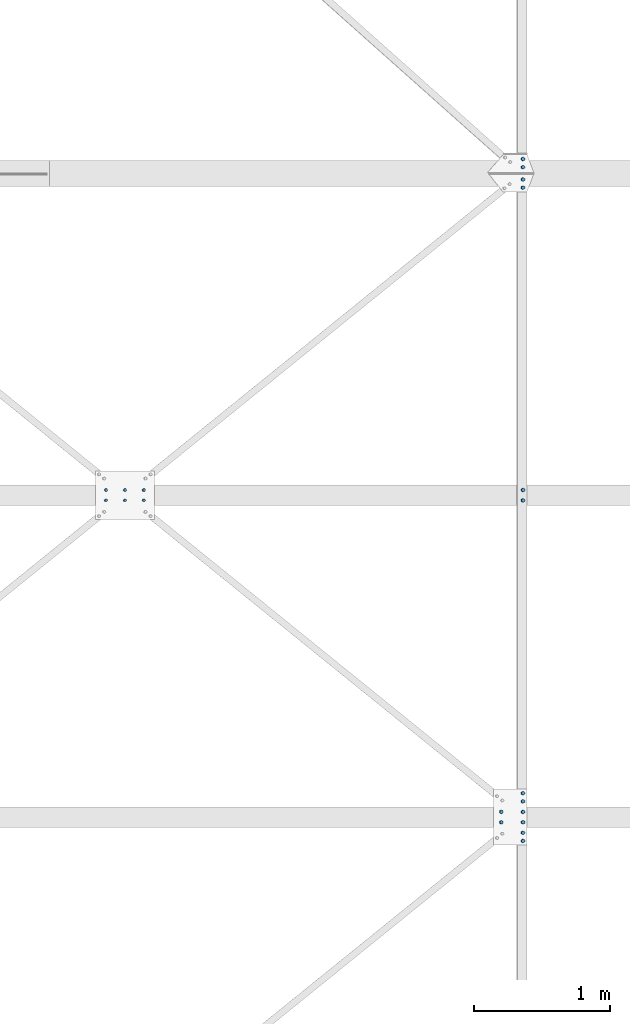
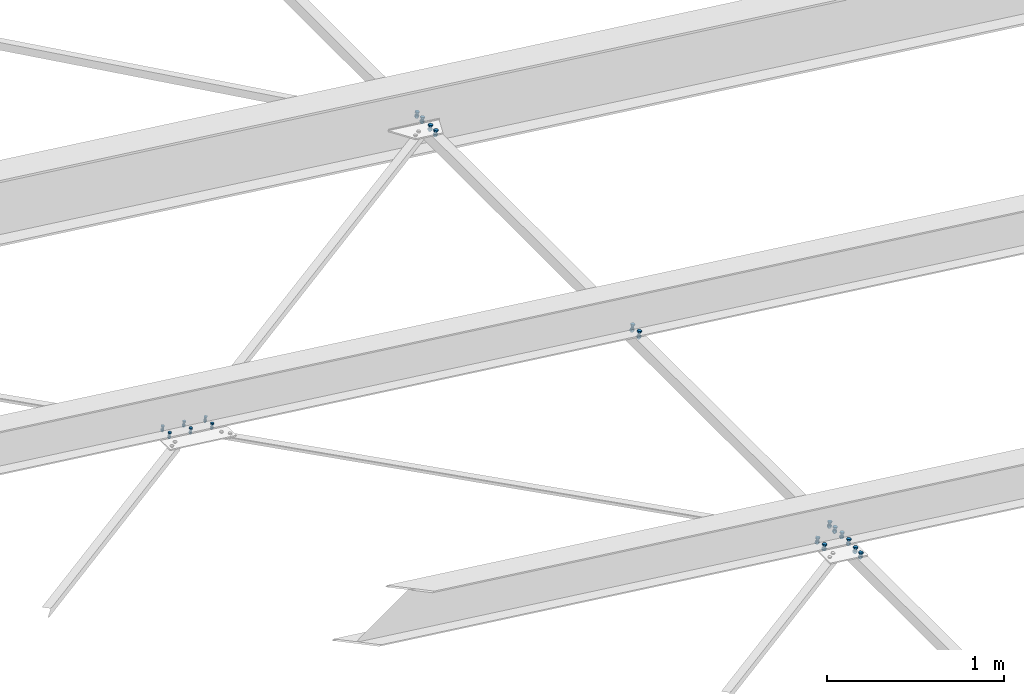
# One storey, part 94 of 3134: 7 mechanical fasteners, 5 elements without a shape of their own.
"""IFC2X3 building model written with IfcOpenShell, lengths in millimetres."""

import ifcopenshell
import ifcopenshell.guid

model = None  # the IFC model being written
_history = None  # IfcOwnerHistory: only IFC2X3 demands one
_inside = {}  # id of a spatial element -> (the spatial element, [elements in it])
_under = {}  # id of a project, library or spatial element -> (it, [spatial elements below it])
_declared = {}  # id of a project -> (the project, [libraries it declares])
_typed = {}  # id of a type object -> (the type object, [elements of that type])
_made_of = {}  # id of a material, layer set ... -> (it, [elements and type objects made of it])


def new_model(schema):
    """Start an empty IFC model of exactly this schema.

    Asked for "IFC4X3", IfcOpenShell would pick the latest addendum, in which some entities
    have other attributes; the version numbers below select the first issue.
    IFC2X3 requires an IfcOwnerHistory on every rooted entity: one is made here for all.
    """
    global model, _history
    if schema == "IFC4X3":
        model = ifcopenshell.file(schema_version=(4, 3, 0, 0))
    else:
        model = ifcopenshell.file(schema=schema)
    _inside.clear()
    _under.clear()
    _declared.clear()
    _typed.clear()
    _made_of.clear()
    _history = None
    if model.schema == "IFC2X3":
        org = make("IfcOrganization", Name="unknown")
        user = make(
            "IfcPersonAndOrganization",
            ThePerson=make("IfcPerson", FamilyName="unknown"),
            TheOrganization=org,
        )
        app = make(
            "IfcApplication",
            ApplicationDeveloper=org,
            Version="unknown",
            ApplicationFullName="unknown",
            ApplicationIdentifier="unknown",
        )
        _history = make(
            "IfcOwnerHistory",
            OwningUser=user,
            OwningApplication=app,
            ChangeAction="ADDED",
            CreationDate=0,
        )
    return model


def make(cls, **values):
    """One entity of the class cls with the attributes given. An attribute that is None is left unset."""
    return model.create_entity(
        cls, **{name: value for name, value in values.items() if value is not None}
    )


def rooted(cls, **values):
    """An entity with a GlobalId (a new one), such as an element, a storey or a relation."""
    return make(cls, GlobalId=ifcopenshell.guid.new(), OwnerHistory=_history, **values)


def si_unit(unit_type, name, prefix=None):
    """IfcSIUnit, for example si_unit("LENGTHUNIT", "METRE", prefix="MILLI")."""
    return make("IfcSIUnit", UnitType=unit_type, Prefix=prefix, Name=name)


def assignment(units):
    """IfcUnitAssignment: the units of a project."""
    return None if units is None else make("IfcUnitAssignment", Units=units)


def point(xyz):
    """IfcCartesianPoint."""
    return None if xyz is None else make("IfcCartesianPoint", Coordinates=xyz)


def direction(xyz):
    """IfcDirection."""
    return None if xyz is None else make("IfcDirection", DirectionRatios=xyz)


def frame(location, z_axis=None, x_axis=None):
    """IfcAxis2Placement3D, a coordinate frame: its origin and axes. An axis left out is left unset."""
    return make(
        "IfcAxis2Placement3D",
        Location=point(location),
        Axis=direction(z_axis),
        RefDirection=direction(x_axis),
    )


def origin_with_axes():
    """The frame at (0, 0, 0) with the z axis (0, 0, 1) and the x axis (1, 0, 0) written out."""
    return frame((0.0, 0.0, 0.0), z_axis=(0.0, 0.0, 1.0), x_axis=(1.0, 0.0, 0.0))


def place(relative_to, where):
    """IfcLocalPlacement: puts the frame where relative to a parent placement (None: the world)."""
    return make(
        "IfcLocalPlacement", PlacementRelTo=relative_to, RelativePlacement=where
    )


def context(
    kind, dimensions, precision=None, world=None, true_north=None, identifier=None
):
    """IfcGeometricRepresentationContext, for example the 3D "Model" context."""
    return make(
        "IfcGeometricRepresentationContext",
        ContextIdentifier=identifier,
        ContextType=kind,
        CoordinateSpaceDimension=dimensions,
        Precision=precision,
        WorldCoordinateSystem=world,
        TrueNorth=true_north,
    )


def subcontext(parent, identifier, kind, view, scale=None):
    """IfcGeometricRepresentationSubContext, for example "Body" below "Model"."""
    return make(
        "IfcGeometricRepresentationSubContext",
        ContextIdentifier=identifier,
        ContextType=kind,
        ParentContext=parent,
        TargetScale=scale,
        TargetView=view,
    )


def project(units=None, contexts=None):
    """IfcProject with its units and contexts."""
    return rooted(
        "IfcProject",
        Name="project",
        RepresentationContexts=contexts,
        UnitsInContext=assignment(units),
    )


def spatial(cls, under=None, at=None, **own):
    """A site, building, storey or space (cls), placed at a placement, below another one or the project."""
    s = rooted(cls, ObjectPlacement=at, **own)
    if under is not None:
        _under.setdefault(under.id(), (under, []))[1].append(s)
    return s


def faces_of(points, faces, orient=None, outer=None):
    """IfcFace entities. A face is a list of loops; a loop is a list of indices into points, from 0.

    orient and outer hold one flag for each loop. By default every Orientation is true, the
    first loop of a face is its IfcFaceOuterBound and the others are IfcFaceBound.
    """
    made = []
    for i, loops in enumerate(faces):
        bounds = []
        for j, loop in enumerate(loops):
            is_outer = j == 0 if outer is None else outer[i][j]
            bounds.append(
                make(
                    "IfcFaceOuterBound" if is_outer else "IfcFaceBound",
                    Bound=make("IfcPolyLoop", Polygon=[points[k] for k in loop]),
                    Orientation=True if orient is None else orient[i][j],
                )
            )
        made.append(make("IfcFace", Bounds=bounds))
    return made


def faceted_brep(points, faces, orient=None, outer=None, voids=None):
    """IfcFacetedBrep: a solid bounded by flat faces; with voids (closed shells), ...WithVoids."""
    shared = [point(p) for p in points]
    hull = make("IfcClosedShell", CfsFaces=faces_of(shared, faces, orient, outer))
    if voids is None:
        return make("IfcFacetedBrep", Outer=hull)
    return make(
        "IfcFacetedBrepWithVoids",
        Outer=hull,
        Voids=[
            make(cls, CfsFaces=faces_of(shared, fs, o, b)) for cls, fs, o, b in voids
        ],
    )


def shape(context_of_items, identifier, shape_type, items):
    """IfcShapeRepresentation: the items that make up one representation, for example the "Body"."""
    return make(
        "IfcShapeRepresentation",
        ContextOfItems=context_of_items,
        RepresentationIdentifier=identifier,
        RepresentationType=shape_type,
        Items=items,
    )


def source(mapping_origin, context_of_items, identifier, shape_type, items):
    """IfcRepresentationMap: a shape defined once, which mapped items show again and again."""
    return make(
        "IfcRepresentationMap",
        MappingOrigin=mapping_origin,
        MappedRepresentation=shape(context_of_items, identifier, shape_type, items),
    )


def transform(
    local_origin,
    x_axis=None,
    y_axis=None,
    z_axis=None,
    scale=None,
    scale2=None,
    scale3=None,
    uniform=True,
):
    """IfcCartesianTransformationOperator3D, or its non-uniform kind. x_axis, y_axis, z_axis: its Axis1, 2, 3."""
    if uniform:
        return make(
            "IfcCartesianTransformationOperator3D",
            Axis1=direction(x_axis),
            Axis2=direction(y_axis),
            LocalOrigin=point(local_origin),
            Scale=scale,
            Axis3=direction(z_axis),
        )
    return make(
        "IfcCartesianTransformationOperator3DnonUniform",
        Axis1=direction(x_axis),
        Axis2=direction(y_axis),
        LocalOrigin=point(local_origin),
        Scale=scale,
        Axis3=direction(z_axis),
        Scale2=scale2,
        Scale3=scale3,
    )


def mapped(mapping_source, mapping_target):
    """IfcMappedItem: shows the shape of a source again, moved by a transform."""
    return make(
        "IfcMappedItem", MappingSource=mapping_source, MappingTarget=mapping_target
    )


def material(Name=None, Category=None):
    """IfcMaterial."""
    return make("IfcMaterial", Name=Name, Category=Category)


def made_of(thing, what):
    """Note that an element or type object is made of a material, layer set ...; save() writes the relation."""
    if what is not None:
        _made_of.setdefault(what.id(), (what, []))[1].append(thing)
    return thing


def type_object(cls, material=None, **own):
    """A type object (cls), such as IfcWallType, which elements share."""
    return made_of(rooted(cls, **own), material)


def element(
    cls,
    number,
    at=None,
    inside=None,
    cuts=None,
    type_object=None,
    material=None,
    context=None,
    identifier="Body",
    shape_type=None,
    held_by="IfcProductDefinitionShape",
    body=None,
    shapes=None,
    **own,
):
    """One element of the class cls, such as IfcWall. Its Tag is "e" and its number.

    at: its placement. inside: the storey or other place that contains it. cuts: it is an
    opening in that element (IfcRelVoidsElement). A single representation is given by context,
    identifier, shape_type and body (its items); several are given by shapes. held_by: the class
    of the entity that holds the representations. save() writes the other relations.
    """
    e = rooted(cls, Tag="e%d" % number, ObjectPlacement=at, **own)
    if body is not None:
        shapes = [shape(context, identifier, shape_type, body)]
    if shapes is not None:
        e.Representation = make(held_by, Representations=shapes)
    if inside is not None:
        _inside.setdefault(inside.id(), (inside, []))[1].append(e)
    if cuts is not None:
        rooted(
            "IfcRelVoidsElement", RelatingBuildingElement=cuts, RelatedOpeningElement=e
        )
    if type_object is not None:
        _typed.setdefault(type_object.id(), (type_object, []))[1].append(e)
    return made_of(e, material)


def aggregate(whole, parts):
    """IfcRelAggregates: a whole, such as a stair, and the parts it consists of."""
    return rooted("IfcRelAggregates", RelatingObject=whole, RelatedObjects=parts)


def save(model, path):
    """Write the relations noted so far, then the file.

    IfcRelAggregates (storeys below a building ...), IfcRelContainedInSpatialStructure (elements
    in a storey), IfcRelDefinesByType, IfcRelAssociatesMaterial and IfcRelDeclares: one each for
    every whole, place, type object, material and project.
    """
    for whole, parts in _under.values():
        aggregate(whole, parts)
    for where, things in _inside.values():
        rooted(
            "IfcRelContainedInSpatialStructure",
            RelatedElements=things,
            RelatingStructure=where,
        )
    for kind, things in _typed.values():
        rooted("IfcRelDefinesByType", RelatedObjects=things, RelatingType=kind)
    for what, things in _made_of.values():
        rooted("IfcRelAssociatesMaterial", RelatedObjects=things, RelatingMaterial=what)
    for by, libraries in _declared.values():
        rooted("IfcRelDeclares", RelatingContext=by, RelatedDefinitions=libraries)
    model.write(path)


model = new_model("IFC2X3")

# Units and contexts
model_context = context("Model", 3, precision=1e-05, world=origin_with_axes())
body_context = subcontext(model_context, "Body", "Model", "MODEL_VIEW")
ifc_project = project(units=[si_unit("LENGTHUNIT", "METRE", prefix="MILLI"), si_unit("AREAUNIT", "SQUARE_METRE"), si_unit("VOLUMEUNIT", "CUBIC_METRE"), si_unit("MASSUNIT", "GRAM", prefix="KILO"), si_unit("TIMEUNIT", "SECOND"), si_unit("PLANEANGLEUNIT", "RADIAN"), si_unit("SOLIDANGLEUNIT", "STERADIAN"), si_unit("THERMODYNAMICTEMPERATUREUNIT", "DEGREE_CELSIUS"), si_unit("LUMINOUSINTENSITYUNIT", "LUMEN")], contexts=[model_context])

# Site, building, storey
site_placement = place(None, origin_with_axes())
site = spatial("IfcSite", under=ifc_project, at=site_placement, CompositionType="ELEMENT")
building_placement = place(site_placement, origin_with_axes())
building = spatial("IfcBuilding", under=site, at=building_placement, Name="Undefined", CompositionType="ELEMENT")
storey_placement = place(building_placement, origin_with_axes())
storey = spatial("IfcBuildingStorey", under=building, at=storey_placement, Name="Undefined", CompositionType="ELEMENT", Elevation=0.0)

# Assembly, mechanical fastener
assembly_1_placement = place(storey_placement, origin_with_axes())
assembly_1 = element("IfcElementAssembly", 1, at=assembly_1_placement, inside=storey, Name="300", AssemblyPlace="NOTDEFINED", PredefinedType="RIGID_FRAME")
ifc_material = material(Name="8.8")
mechanical_fastener_type = type_object("IfcMechanicalFastenerType", Name="Bolt assembly")
shared_shape_1 = source(origin_with_axes(), body_context, "Body", "Brep", [
    faceted_brep([(13.856406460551, -19.199990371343, 0.0), (6.92820323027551, -19.199990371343, 12.0), (-6.92820323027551, -19.199990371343, 12.0), (-13.856406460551, -19.199990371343, 1.69692038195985e-15), (-6.92820323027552, -19.199990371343, -12.0), (6.9282032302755, -19.199990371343, -12.0), (6.9282032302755, -9.19999037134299, -12.0), (-6.92820323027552, -9.19999037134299, -12.0), (-13.856406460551, -9.19999037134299, 1.69692038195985e-15), (-6.92820323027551, -9.19999037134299, 12.0), (6.92820323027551, -9.19999037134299, 12.0), (13.856406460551, -9.19999037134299, 0.0), (8.0, -9.19999037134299, 0.0), (6.92820323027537, -9.19999037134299, 4.00000000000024), (3.99999999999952, -9.19999037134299, 6.92820323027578), (-8.29068785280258e-13, -9.19999037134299, 8.0), (-4.00000000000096, -9.19999037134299, 6.92820323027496), (-6.9282032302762, -9.19999037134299, 3.99999999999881), (-8.0, -9.19999037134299, -1.65813757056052e-12), (-6.92820323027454, -9.19999037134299, -4.00000000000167), (-3.99999999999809, -9.19999037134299, -6.92820323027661), (2.47832457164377e-12, -9.19999037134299, -8.0), (4.00000000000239, -9.19999037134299, -6.92820323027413), (6.92820323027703, -9.19999037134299, -3.99999999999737), (6.92820323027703, 25.800009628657, -3.99999999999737), (4.00000000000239, 25.800009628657, -6.92820323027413), (2.47832457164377e-12, 25.800009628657, -8.0), (-3.99999999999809, 25.800009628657, -6.92820323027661), (-6.92820323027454, 25.800009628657, -4.00000000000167), (-8.0, 25.800009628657, -1.65813757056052e-12), (-6.9282032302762, 25.800009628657, 3.99999999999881), (-4.00000000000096, 25.800009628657, 6.92820323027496), (-8.29068785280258e-13, 25.800009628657, 8.0), (3.99999999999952, 25.800009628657, 6.92820323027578), (6.92820323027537, 25.800009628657, 4.00000000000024), (8.0, 25.800009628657, 0.0), (13.856406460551, 8.00000637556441, 0.0), (6.92820323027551, 8.00000637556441, 12.0), (-6.92820323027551, 8.00000637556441, 12.0), (-13.856406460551, 8.00000637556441, 1.69692038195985e-15), (-6.92820323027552, 8.00000637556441, -12.0), (6.9282032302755, 8.00000637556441, -12.0), (6.9282032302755, 21.0000063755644, -12.0), (-6.92820323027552, 21.0000063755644, -12.0), (-13.856406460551, 21.0000063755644, 1.69692038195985e-15), (-6.92820323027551, 21.0000063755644, 12.0), (6.92820323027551, 21.0000063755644, 12.0), (13.856406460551, 21.0000063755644, 0.0)], [[[0, 1, 2, 3, 4, 5]], [[6, 7, 8, 9, 10, 11]], [[0, 11, 10, 1]], [[1, 10, 9, 2]], [[2, 9, 8, 3]], [[3, 8, 7, 4]], [[4, 7, 6, 5]], [[5, 6, 11, 0]], [[12, 13, 14, 15, 16, 17, 18, 19, 20, 21, 22, 23]], [[24, 25, 26, 27, 28, 29, 30, 31, 32, 33, 34, 35]], [[12, 35, 34, 13]], [[13, 34, 33, 14]], [[14, 33, 32, 15]], [[15, 32, 31, 16]], [[16, 31, 30, 17]], [[17, 30, 29, 18]], [[18, 29, 28, 19]], [[19, 28, 27, 20]], [[20, 27, 26, 21]], [[21, 26, 25, 22]], [[22, 25, 24, 23]], [[23, 24, 35, 12]], [[36, 37, 38, 39, 40, 41]], [[42, 43, 44, 45, 46, 47]], [[36, 47, 46, 37]], [[37, 46, 45, 38]], [[38, 45, 44, 39]], [[39, 44, 43, 40]], [[40, 43, 42, 41]], [[41, 42, 47, 36]]]),
    faceted_brep([(9.0, -0.1, 0.0), (7.79422863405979, -0.1, 4.50000000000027), (4.49999999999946, -0.1, 7.79422863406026), (-9.3270238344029e-13, -0.1, 9.0), (-4.50000000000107, -0.1, 7.79422863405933), (-7.79422863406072, -0.1, 4.49999999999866), (-9.0, -0.1, -1.86540476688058e-12), (-7.79422863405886, -0.1, -4.50000000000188), (-4.49999999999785, -0.1, -7.79422863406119), (2.78811514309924e-12, -0.1, -9.0), (4.50000000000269, -0.1, -7.7942286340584), (7.79422863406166, -0.1, -4.49999999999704), (7.79422863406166, 8.00000000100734, -4.49999999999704), (4.50000000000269, 8.00000000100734, -7.7942286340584), (2.78811514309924e-12, 8.00000000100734, -9.0), (-4.49999999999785, 8.00000000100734, -7.79422863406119), (-7.79422863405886, 8.00000000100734, -4.50000000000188), (-9.0, 8.00000000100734, -1.86540476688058e-12), (-7.79422863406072, 8.00000000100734, 4.49999999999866), (-4.50000000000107, 8.00000000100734, 7.79422863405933), (-9.3270238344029e-13, 8.00000000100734, 9.0), (4.49999999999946, 8.00000000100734, 7.79422863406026), (7.79422863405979, 8.00000000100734, 4.50000000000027), (9.0, 8.00000000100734, 0.0), (9.0, -9.09999037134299, 0.0), (7.79422863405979, -9.09999037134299, 4.50000000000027), (4.49999999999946, -9.09999037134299, 7.79422863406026), (-9.3270238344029e-13, -9.09999037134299, 9.0), (-4.50000000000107, -9.09999037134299, 7.79422863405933), (-7.79422863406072, -9.09999037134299, 4.49999999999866), (-9.0, -9.09999037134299, -1.86540476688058e-12), (-7.79422863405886, -9.09999037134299, -4.50000000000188), (-4.49999999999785, -9.09999037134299, -7.79422863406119), (2.78811514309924e-12, -9.09999037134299, -9.0), (4.50000000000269, -9.09999037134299, -7.7942286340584), (7.79422863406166, -9.09999037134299, -4.49999999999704), (7.79422863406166, 0.100000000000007, -4.49999999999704), (4.50000000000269, 0.100000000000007, -7.7942286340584), (2.78811514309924e-12, 0.100000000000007, -9.0), (-4.49999999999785, 0.100000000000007, -7.79422863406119), (-7.79422863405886, 0.100000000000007, -4.50000000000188), (-9.0, 0.100000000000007, -1.86540476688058e-12), (-7.79422863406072, 0.100000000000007, 4.49999999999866), (-4.50000000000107, 0.100000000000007, 7.79422863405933), (-9.3270238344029e-13, 0.100000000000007, 9.0), (4.49999999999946, 0.100000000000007, 7.79422863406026), (7.79422863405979, 0.100000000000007, 4.50000000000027), (9.0, 0.100000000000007, 0.0)], [[[0, 1, 2, 3, 4, 5, 6, 7, 8, 9, 10, 11]], [[12, 13, 14, 15, 16, 17, 18, 19, 20, 21, 22, 23]], [[0, 23, 22, 1]], [[1, 22, 21, 2]], [[2, 21, 20, 3]], [[3, 20, 19, 4]], [[4, 19, 18, 5]], [[5, 18, 17, 6]], [[6, 17, 16, 7]], [[7, 16, 15, 8]], [[8, 15, 14, 9]], [[9, 14, 13, 10]], [[10, 13, 12, 11]], [[11, 12, 23, 0]], [[24, 25, 26, 27, 28, 29, 30, 31, 32, 33, 34, 35]], [[36, 37, 38, 39, 40, 41, 42, 43, 44, 45, 46, 47]], [[24, 47, 46, 25]], [[25, 46, 45, 26]], [[26, 45, 44, 27]], [[27, 44, 43, 28]], [[28, 43, 42, 29]], [[29, 42, 41, 30]], [[30, 41, 40, 31]], [[31, 40, 39, 32]], [[32, 39, 38, 33]], [[33, 38, 37, 34]], [[34, 37, 36, 35]], [[35, 36, 47, 24]]]),
])
mechanical_fastener_1_placement = place(assembly_1_placement, frame((26608.5751064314, 14692.0, 4816.43281405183), z_axis=(-0.992623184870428, 0.0, 0.121240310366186), x_axis=(0.0, 1.0, 0.0)))
mechanical_fastener_1 = element("IfcMechanicalFastener", 2, at=mechanical_fastener_1_placement, type_object=mechanical_fastener_type, material=ifc_material, Name="Bolt assembly", NominalDiameter=16.0, NominalLength=35.0, context=body_context, shape_type="MappedRepresentation", body=[
    mapped(shared_shape_1, transform((0.0, -5.32963895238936e-10, -79.9999999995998))),
    mapped(shared_shape_1, transform((76.0, -5.32963895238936e-10, -79.9999999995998))),
    mapped(shared_shape_1, transform((0.0, 5.3114490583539e-10, 79.9999999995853))),
    mapped(shared_shape_1, transform((76.0, 5.3114490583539e-10, 79.9999999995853))),
])
aggregate(assembly_1, [mechanical_fastener_1])

assembly_2_placement = place(storey_placement, origin_with_axes())
assembly_2 = element("IfcElementAssembly", 3, at=assembly_2_placement, inside=storey, AssemblyPlace="NOTDEFINED", PredefinedType="RIGID_FRAME")
shared_shape_2 = source(origin_with_axes(), body_context, "Body", "Brep", [
    faceted_brep([(13.856406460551, -19.199990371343, 0.0), (6.92820323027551, -19.199990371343, 12.0), (-6.92820323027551, -19.199990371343, 12.0), (-13.856406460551, -19.199990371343, 1.69692038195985e-15), (-6.92820323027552, -19.199990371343, -12.0), (6.9282032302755, -19.199990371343, -12.0), (6.9282032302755, -9.19999037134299, -12.0), (-6.92820323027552, -9.19999037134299, -12.0), (-13.856406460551, -9.19999037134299, 1.69692038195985e-15), (-6.92820323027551, -9.19999037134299, 12.0), (6.92820323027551, -9.19999037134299, 12.0), (13.856406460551, -9.19999037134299, 0.0), (8.0, -9.19999037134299, 0.0), (6.92820323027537, -9.19999037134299, 4.00000000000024), (3.99999999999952, -9.19999037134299, 6.92820323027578), (-8.29068785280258e-13, -9.19999037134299, 8.0), (-4.00000000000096, -9.19999037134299, 6.92820323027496), (-6.9282032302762, -9.19999037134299, 3.99999999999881), (-8.0, -9.19999037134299, -1.65813757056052e-12), (-6.92820323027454, -9.19999037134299, -4.00000000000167), (-3.99999999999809, -9.19999037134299, -6.92820323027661), (2.47832457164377e-12, -9.19999037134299, -8.0), (4.00000000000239, -9.19999037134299, -6.92820323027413), (6.92820323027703, -9.19999037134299, -3.99999999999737), (6.92820323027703, 35.8000002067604, -3.99999999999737), (4.00000000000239, 35.8000002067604, -6.92820323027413), (2.47832457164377e-12, 35.8000002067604, -8.0), (-3.99999999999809, 35.8000002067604, -6.92820323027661), (-6.92820323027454, 35.8000002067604, -4.00000000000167), (-8.0, 35.8000002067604, -1.65813757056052e-12), (-6.9282032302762, 35.8000002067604, 3.99999999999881), (-4.00000000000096, 35.8000002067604, 6.92820323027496), (-8.29068785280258e-13, 35.8000002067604, 8.0), (3.99999999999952, 35.8000002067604, 6.92820323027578), (6.92820323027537, 35.8000002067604, 4.00000000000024), (8.0, 35.8000002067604, 0.0), (13.856406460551, 14.9999995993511, 0.0), (6.92820323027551, 14.9999995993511, 12.0), (-6.92820323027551, 14.9999995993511, 12.0), (-13.856406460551, 14.9999995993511, 1.69692038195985e-15), (-6.92820323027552, 14.9999995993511, -12.0), (6.9282032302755, 14.9999995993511, -12.0), (6.9282032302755, 27.9999995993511, -12.0), (-6.92820323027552, 27.9999995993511, -12.0), (-13.856406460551, 27.9999995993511, 1.69692038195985e-15), (-6.92820323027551, 27.9999995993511, 12.0), (6.92820323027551, 27.9999995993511, 12.0), (13.856406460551, 27.9999995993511, 0.0)], [[[0, 1, 2, 3, 4, 5]], [[6, 7, 8, 9, 10, 11]], [[0, 11, 10, 1]], [[1, 10, 9, 2]], [[2, 9, 8, 3]], [[3, 8, 7, 4]], [[4, 7, 6, 5]], [[5, 6, 11, 0]], [[12, 13, 14, 15, 16, 17, 18, 19, 20, 21, 22, 23]], [[24, 25, 26, 27, 28, 29, 30, 31, 32, 33, 34, 35]], [[12, 35, 34, 13]], [[13, 34, 33, 14]], [[14, 33, 32, 15]], [[15, 32, 31, 16]], [[16, 31, 30, 17]], [[17, 30, 29, 18]], [[18, 29, 28, 19]], [[19, 28, 27, 20]], [[20, 27, 26, 21]], [[21, 26, 25, 22]], [[22, 25, 24, 23]], [[23, 24, 35, 12]], [[36, 37, 38, 39, 40, 41]], [[42, 43, 44, 45, 46, 47]], [[36, 47, 46, 37]], [[37, 46, 45, 38]], [[38, 45, 44, 39]], [[39, 44, 43, 40]], [[40, 43, 42, 41]], [[41, 42, 47, 36]]]),
    faceted_brep([(9.0, -9.09999037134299, 0.0), (7.79422863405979, -9.09999037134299, 4.50000000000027), (4.49999999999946, -9.09999037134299, 7.79422863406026), (-9.3270238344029e-13, -9.09999037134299, 9.0), (-4.50000000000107, -9.09999037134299, 7.79422863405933), (-7.79422863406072, -9.09999037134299, 4.49999999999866), (-9.0, -9.09999037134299, -1.86540476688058e-12), (-7.79422863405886, -9.09999037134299, -4.50000000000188), (-4.49999999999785, -9.09999037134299, -7.79422863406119), (2.78811514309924e-12, -9.09999037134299, -9.0), (4.50000000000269, -9.09999037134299, -7.7942286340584), (7.79422863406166, -9.09999037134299, -4.49999999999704), (7.79422863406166, 0.100000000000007, -4.49999999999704), (4.50000000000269, 0.100000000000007, -7.7942286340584), (2.78811514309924e-12, 0.100000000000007, -9.0), (-4.49999999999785, 0.100000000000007, -7.79422863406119), (-7.79422863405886, 0.100000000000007, -4.50000000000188), (-9.0, 0.100000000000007, -1.86540476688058e-12), (-7.79422863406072, 0.100000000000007, 4.49999999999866), (-4.50000000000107, 0.100000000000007, 7.79422863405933), (-9.3270238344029e-13, 0.100000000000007, 9.0), (4.49999999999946, 0.100000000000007, 7.79422863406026), (7.79422863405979, 0.100000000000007, 4.50000000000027), (9.0, 0.100000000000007, 0.0), (9.0, 7.9, 0.0), (7.79422863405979, 7.9, 4.50000000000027), (4.49999999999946, 7.9, 7.79422863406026), (-9.3270238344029e-13, 7.9, 9.0), (-4.50000000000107, 7.9, 7.79422863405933), (-7.79422863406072, 7.9, 4.49999999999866), (-9.0, 7.9, -1.86540476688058e-12), (-7.79422863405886, 7.9, -4.50000000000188), (-4.49999999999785, 7.9, -7.79422863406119), (2.78811514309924e-12, 7.9, -9.0), (4.50000000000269, 7.9, -7.7942286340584), (7.79422863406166, 7.9, -4.49999999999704), (7.79422863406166, 14.9999995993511, -4.49999999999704), (4.50000000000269, 14.9999995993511, -7.7942286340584), (2.78811514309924e-12, 14.9999995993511, -9.0), (-4.49999999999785, 14.9999995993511, -7.79422863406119), (-7.79422863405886, 14.9999995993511, -4.50000000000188), (-9.0, 14.9999995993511, -1.86540476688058e-12), (-7.79422863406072, 14.9999995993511, 4.49999999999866), (-4.50000000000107, 14.9999995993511, 7.79422863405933), (-9.3270238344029e-13, 14.9999995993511, 9.0), (4.49999999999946, 14.9999995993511, 7.79422863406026), (7.79422863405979, 14.9999995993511, 4.50000000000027), (9.0, 14.9999995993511, 0.0)], [[[0, 1, 2, 3, 4, 5, 6, 7, 8, 9, 10, 11]], [[12, 13, 14, 15, 16, 17, 18, 19, 20, 21, 22, 23]], [[0, 23, 22, 1]], [[1, 22, 21, 2]], [[2, 21, 20, 3]], [[3, 20, 19, 4]], [[4, 19, 18, 5]], [[5, 18, 17, 6]], [[6, 17, 16, 7]], [[7, 16, 15, 8]], [[8, 15, 14, 9]], [[9, 14, 13, 10]], [[10, 13, 12, 11]], [[11, 12, 23, 0]], [[24, 25, 26, 27, 28, 29, 30, 31, 32, 33, 34, 35]], [[36, 37, 38, 39, 40, 41, 42, 43, 44, 45, 46, 47]], [[24, 47, 46, 25]], [[25, 46, 45, 26]], [[26, 45, 44, 27]], [[27, 44, 43, 28]], [[28, 43, 42, 29]], [[29, 42, 41, 30]], [[30, 41, 40, 31]], [[31, 40, 39, 32]], [[32, 39, 38, 33]], [[33, 38, 37, 34]], [[34, 37, 36, 35]], [[35, 36, 47, 24]]]),
])
mechanical_fastener_2_placement = place(assembly_2_placement, frame((26687.984961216, 17052.0, 4806.73358921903), z_axis=(-0.992623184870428, 0.0, 0.121240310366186), x_axis=(0.0, 1.0, 0.0)))
mechanical_fastener_2 = element("IfcMechanicalFastener", 4, at=mechanical_fastener_2_placement, type_object=mechanical_fastener_type, material=ifc_material, Name="Bolt assembly", NominalDiameter=16.0, NominalLength=45.0, context=body_context, shape_type="MappedRepresentation", body=[
    mapped(shared_shape_2, transform((0.0, 0.0, 0.0))),
    mapped(shared_shape_2, transform((76.0, 0.0, 0.0))),
])
aggregate(assembly_2, [mechanical_fastener_2])

# Assembly, mechanical fasteners
assembly_3_placement = place(storey_placement, origin_with_axes())
assembly_3 = element("IfcElementAssembly", 5, at=assembly_3_placement, inside=storey, Name="IPE450", AssemblyPlace="NOTDEFINED", PredefinedType="RIGID_FRAME")
shared_shape_3 = source(origin_with_axes(), body_context, "Body", "Brep", [
    faceted_brep([(13.856406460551, -10.0, 0.0), (6.92820323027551, -10.0, 12.0), (-6.92820323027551, -10.0, 12.0), (-13.856406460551, -10.0, 1.69692038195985e-15), (-6.92820323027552, -10.0, -12.0), (6.9282032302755, -10.0, -12.0), (6.9282032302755, 0.0, -12.0), (-6.92820323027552, 0.0, -12.0), (-13.856406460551, 0.0, 1.69692038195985e-15), (-6.92820323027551, 0.0, 12.0), (6.92820323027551, 0.0, 12.0), (13.856406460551, 0.0, 0.0), (8.0, 0.0, 0.0), (6.92820323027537, 0.0, 4.00000000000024), (3.99999999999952, 0.0, 6.92820323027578), (-8.29068785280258e-13, 0.0, 8.0), (-4.00000000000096, 0.0, 6.92820323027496), (-6.9282032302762, 0.0, 3.99999999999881), (-8.0, 0.0, -1.65813757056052e-12), (-6.92820323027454, 0.0, -4.00000000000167), (-3.99999999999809, 0.0, -6.92820323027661), (2.47832457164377e-12, 0.0, -8.0), (4.00000000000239, 0.0, -6.92820323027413), (6.92820323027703, 0.0, -3.99999999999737), (6.92820323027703, 35.0000000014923, -3.99999999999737), (4.00000000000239, 35.0000000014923, -6.92820323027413), (2.47832457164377e-12, 35.0000000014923, -8.0), (-3.99999999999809, 35.0000000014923, -6.92820323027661), (-6.92820323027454, 35.0000000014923, -4.00000000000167), (-8.0, 35.0000000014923, -1.65813757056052e-12), (-6.9282032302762, 35.0000000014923, 3.99999999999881), (-4.00000000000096, 35.0000000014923, 6.92820323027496), (-8.29068785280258e-13, 35.0000000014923, 8.0), (3.99999999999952, 35.0000000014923, 6.92820323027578), (6.92820323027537, 35.0000000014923, 4.00000000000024), (8.0, 35.0000000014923, 0.0), (13.856406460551, 14.9999995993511, 0.0), (6.92820323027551, 14.9999995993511, 12.0), (-6.92820323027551, 14.9999995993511, 12.0), (-13.856406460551, 14.9999995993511, 1.69692038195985e-15), (-6.92820323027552, 14.9999995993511, -12.0), (6.9282032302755, 14.9999995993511, -12.0), (6.9282032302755, 27.9999995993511, -12.0), (-6.92820323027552, 27.9999995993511, -12.0), (-13.856406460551, 27.9999995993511, 1.69692038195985e-15), (-6.92820323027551, 27.9999995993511, 12.0), (6.92820323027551, 27.9999995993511, 12.0), (13.856406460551, 27.9999995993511, 0.0)], [[[0, 1, 2, 3, 4, 5]], [[6, 7, 8, 9, 10, 11]], [[0, 11, 10, 1]], [[1, 10, 9, 2]], [[2, 9, 8, 3]], [[3, 8, 7, 4]], [[4, 7, 6, 5]], [[5, 6, 11, 0]], [[12, 13, 14, 15, 16, 17, 18, 19, 20, 21, 22, 23]], [[24, 25, 26, 27, 28, 29, 30, 31, 32, 33, 34, 35]], [[12, 35, 34, 13]], [[13, 34, 33, 14]], [[14, 33, 32, 15]], [[15, 32, 31, 16]], [[16, 31, 30, 17]], [[17, 30, 29, 18]], [[18, 29, 28, 19]], [[19, 28, 27, 20]], [[20, 27, 26, 21]], [[21, 26, 25, 22]], [[22, 25, 24, 23]], [[23, 24, 35, 12]], [[36, 37, 38, 39, 40, 41]], [[42, 43, 44, 45, 46, 47]], [[36, 47, 46, 37]], [[37, 46, 45, 38]], [[38, 45, 44, 39]], [[39, 44, 43, 40]], [[40, 43, 42, 41]], [[41, 42, 47, 36]]]),
    faceted_brep([(9.0, 7.9, 0.0), (7.79422863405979, 7.9, 4.50000000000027), (4.49999999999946, 7.9, 7.79422863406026), (-9.3270238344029e-13, 7.9, 9.0), (-4.50000000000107, 7.9, 7.79422863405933), (-7.79422863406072, 7.9, 4.49999999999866), (-9.0, 7.9, -1.86540476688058e-12), (-7.79422863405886, 7.9, -4.50000000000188), (-4.49999999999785, 7.9, -7.79422863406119), (2.78811514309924e-12, 7.9, -9.0), (4.50000000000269, 7.9, -7.7942286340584), (7.79422863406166, 7.9, -4.49999999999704), (7.79422863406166, 14.9999995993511, -4.49999999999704), (4.50000000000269, 14.9999995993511, -7.7942286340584), (2.78811514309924e-12, 14.9999995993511, -9.0), (-4.49999999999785, 14.9999995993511, -7.79422863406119), (-7.79422863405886, 14.9999995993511, -4.50000000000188), (-9.0, 14.9999995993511, -1.86540476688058e-12), (-7.79422863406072, 14.9999995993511, 4.49999999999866), (-4.50000000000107, 14.9999995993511, 7.79422863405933), (-9.3270238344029e-13, 14.9999995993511, 9.0), (4.49999999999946, 14.9999995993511, 7.79422863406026), (7.79422863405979, 14.9999995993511, 4.50000000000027), (9.0, 14.9999995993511, 0.0), (9.0, 0.100000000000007, 0.0), (7.79422863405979, 0.100000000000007, 4.50000000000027), (4.49999999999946, 0.100000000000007, 7.79422863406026), (-9.3270238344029e-13, 0.100000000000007, 9.0), (-4.50000000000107, 0.100000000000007, 7.79422863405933), (-7.79422863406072, 0.100000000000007, 4.49999999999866), (-9.0, 0.100000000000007, -1.86540476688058e-12), (-7.79422863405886, 0.100000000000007, -4.50000000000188), (-4.49999999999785, 0.100000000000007, -7.79422863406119), (2.78811514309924e-12, 0.100000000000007, -9.0), (4.50000000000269, 0.100000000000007, -7.7942286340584), (7.79422863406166, 0.100000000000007, -4.49999999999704), (7.79422863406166, 8.1, -4.49999999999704), (4.50000000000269, 8.1, -7.7942286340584), (2.78811514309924e-12, 8.1, -9.0), (-4.49999999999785, 8.1, -7.79422863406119), (-7.79422863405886, 8.1, -4.50000000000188), (-9.0, 8.1, -1.86540476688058e-12), (-7.79422863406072, 8.1, 4.49999999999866), (-4.50000000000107, 8.1, 7.79422863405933), (-9.3270238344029e-13, 8.1, 9.0), (4.49999999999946, 8.1, 7.79422863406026), (7.79422863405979, 8.1, 4.50000000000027), (9.0, 8.1, 0.0)], [[[0, 1, 2, 3, 4, 5, 6, 7, 8, 9, 10, 11]], [[12, 13, 14, 15, 16, 17, 18, 19, 20, 21, 22, 23]], [[0, 23, 22, 1]], [[1, 22, 21, 2]], [[2, 21, 20, 3]], [[3, 20, 19, 4]], [[4, 19, 18, 5]], [[5, 18, 17, 6]], [[6, 17, 16, 7]], [[7, 16, 15, 8]], [[8, 15, 14, 9]], [[9, 14, 13, 10]], [[10, 13, 12, 11]], [[11, 12, 23, 0]], [[24, 25, 26, 27, 28, 29, 30, 31, 32, 33, 34, 35]], [[36, 37, 38, 39, 40, 41, 42, 43, 44, 45, 46, 47]], [[24, 47, 46, 25]], [[25, 46, 45, 26]], [[26, 45, 44, 27]], [[27, 44, 43, 28]], [[28, 43, 42, 29]], [[29, 42, 41, 30]], [[30, 41, 40, 31]], [[31, 40, 39, 32]], [[32, 39, 38, 33]], [[33, 38, 37, 34]], [[34, 37, 36, 35]], [[35, 36, 47, 24]]]),
])
mechanical_fastener_3_placement = place(assembly_3_placement, frame((26687.9849611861, 19495.0, 4806.73358922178), z_axis=(-0.992623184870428, 0.0, 0.121240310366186), x_axis=(0.0, 1.0, 0.0)))
mechanical_fastener_3 = element("IfcMechanicalFastener", 6, at=mechanical_fastener_3_placement, type_object=mechanical_fastener_type, material=ifc_material, Name="Bolt assembly", NominalDiameter=16.0, NominalLength=35.0, context=body_context, shape_type="MappedRepresentation", body=[
    mapped(shared_shape_3, transform((0.0, 0.0, 0.0))),
    mapped(shared_shape_3, transform((59.9999999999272, 0.0, 5.40239852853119e-10))),
])
mechanical_fastener_4_placement = place(assembly_3_placement, frame((26687.9849611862, 19405.0, 4806.73358922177), z_axis=(0.992623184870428, 0.0, -0.121240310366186), x_axis=(0.0, -1.0, 0.0)))
mechanical_fastener_4 = element("IfcMechanicalFastener", 7, at=mechanical_fastener_4_placement, type_object=mechanical_fastener_type, material=ifc_material, Name="Bolt assembly", NominalDiameter=16.0, NominalLength=35.0, context=body_context, shape_type="MappedRepresentation", body=[
    mapped(shared_shape_3, transform((0.0, 0.0, 0.0))),
    mapped(shared_shape_3, transform((59.9999999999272, 0.0, 5.40239852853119e-10))),
])
aggregate(assembly_3, [mechanical_fastener_3, mechanical_fastener_4])

assembly_4_placement = place(storey_placement, origin_with_axes())
assembly_4 = element("IfcElementAssembly", 8, at=assembly_4_placement, inside=storey, Name="PL8", AssemblyPlace="NOTDEFINED", PredefinedType="RIGID_FRAME")
mechanical_fastener_5_placement = place(assembly_4_placement, frame((26687.9849612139, 14905.0, 4806.73358922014), z_axis=(0.992623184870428, 0.0, -0.121240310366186), x_axis=(0.0, -1.0, 0.0)))
mechanical_fastener_5 = element("IfcMechanicalFastener", 9, at=mechanical_fastener_5_placement, type_object=mechanical_fastener_type, material=ifc_material, Name="Bolt assembly", NominalDiameter=16.0, NominalLength=35.0, context=body_context, shape_type="MappedRepresentation", body=[
    mapped(shared_shape_3, transform((0.0, 0.0, 0.0))),
    mapped(shared_shape_3, transform((59.9999999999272, 0.0, 5.40239852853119e-10))),
])
mechanical_fastener_6_placement = place(assembly_4_placement, frame((26687.9849612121, 14615.0, 4806.73358922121), z_axis=(0.992623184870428, 0.0, -0.121240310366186), x_axis=(0.0, -1.0, 0.0)))
mechanical_fastener_6 = element("IfcMechanicalFastener", 10, at=mechanical_fastener_6_placement, type_object=mechanical_fastener_type, material=ifc_material, Name="Bolt assembly", NominalDiameter=16.0, NominalLength=35.0, context=body_context, shape_type="MappedRepresentation", body=[
    mapped(shared_shape_3, transform((0.0, 0.0, 0.0))),
    mapped(shared_shape_3, transform((59.9999999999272, 0.0, 5.40239852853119e-10))),
])
aggregate(assembly_4, [mechanical_fastener_5, mechanical_fastener_6])

# Assembly, mechanical fastener
assembly_5_placement = place(storey_placement, origin_with_axes())
assembly_5 = element("IfcElementAssembly", 11, at=assembly_5_placement, inside=storey, Name="300", AssemblyPlace="NOTDEFINED", PredefinedType="RIGID_FRAME")
shared_shape_4 = source(origin_with_axes(), body_context, "Body", "Brep", [
    faceted_brep([(10.9696551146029, -17.1999998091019, 0.0), (5.48482755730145, -17.1999998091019, 9.5), (-5.48482755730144, -17.1999998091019, 9.5), (-10.9696551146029, -17.1999998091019, 1.34339530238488e-15), (-5.48482755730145, -17.1999998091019, -9.5), (5.48482755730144, -17.1999998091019, -9.50000000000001), (5.48482755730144, -9.19999978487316, -9.50000000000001), (-5.48482755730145, -9.19999978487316, -9.5), (-10.9696551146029, -9.19999978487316, 1.34339530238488e-15), (-5.48482755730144, -9.19999978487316, 9.5), (5.48482755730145, -9.19999978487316, 9.5), (10.9696551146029, -9.19999978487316, 0.0), (6.0, -9.19999978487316, 0.0), (5.19615242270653, -9.19999978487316, 3.00000000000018), (2.99999999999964, -9.19999978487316, 5.19615242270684), (-6.21801588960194e-13, -9.19999978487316, 6.0), (-3.00000000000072, -9.19999978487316, 5.19615242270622), (-5.19615242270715, -9.19999978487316, 2.9999999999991), (-6.0, -9.19999978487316, -1.24360317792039e-12), (-5.19615242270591, -9.19999978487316, -3.00000000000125), (-2.99999999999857, -9.19999978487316, -5.19615242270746), (1.85874342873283e-12, -9.19999978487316, -6.0), (3.00000000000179, -9.19999978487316, -5.1961524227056), (5.19615242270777, -9.19999978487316, -2.99999999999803), (5.19615242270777, 25.8000002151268, -2.99999999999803), (3.00000000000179, 25.8000002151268, -5.1961524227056), (1.85874342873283e-12, 25.8000002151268, -6.0), (-2.99999999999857, 25.8000002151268, -5.19615242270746), (-5.19615242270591, 25.8000002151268, -3.00000000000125), (-6.0, 25.8000002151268, -1.24360317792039e-12), (-5.19615242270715, 25.8000002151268, 2.9999999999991), (-3.00000000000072, 25.8000002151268, 5.19615242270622), (-6.21801588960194e-13, 25.8000002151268, 6.0), (2.99999999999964, 25.8000002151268, 5.19615242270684), (5.19615242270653, 25.8000002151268, 3.00000000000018), (6.0, 25.8000002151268, 0.0), (10.9696551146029, 8.0, 0.0), (5.48482755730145, 8.0, 9.5), (-5.48482755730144, 8.0, 9.5), (-10.9696551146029, 8.0, 1.34339530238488e-15), (-5.48482755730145, 8.0, -9.5), (5.48482755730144, 8.0, -9.50000000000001), (5.48482755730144, 18.0, -9.50000000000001), (-5.48482755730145, 18.0, -9.5), (-10.9696551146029, 18.0, 1.34339530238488e-15), (-5.48482755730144, 18.0, 9.5), (5.48482755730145, 18.0, 9.5), (10.9696551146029, 18.0, 0.0)], [[[0, 1, 2, 3, 4, 5]], [[6, 7, 8, 9, 10, 11]], [[0, 11, 10, 1]], [[1, 10, 9, 2]], [[2, 9, 8, 3]], [[3, 8, 7, 4]], [[4, 7, 6, 5]], [[5, 6, 11, 0]], [[12, 13, 14, 15, 16, 17, 18, 19, 20, 21, 22, 23]], [[24, 25, 26, 27, 28, 29, 30, 31, 32, 33, 34, 35]], [[12, 35, 34, 13]], [[13, 34, 33, 14]], [[14, 33, 32, 15]], [[15, 32, 31, 16]], [[16, 31, 30, 17]], [[17, 30, 29, 18]], [[18, 29, 28, 19]], [[19, 28, 27, 20]], [[20, 27, 26, 21]], [[21, 26, 25, 22]], [[22, 25, 24, 23]], [[23, 24, 35, 12]], [[36, 37, 38, 39, 40, 41]], [[42, 43, 44, 45, 46, 47]], [[36, 47, 46, 37]], [[37, 46, 45, 38]], [[38, 45, 44, 39]], [[39, 44, 43, 40]], [[40, 43, 42, 41]], [[41, 42, 47, 36]]]),
    faceted_brep([(7.0, -0.1, 0.0), (6.06217782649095, -0.1, 3.50000000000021), (3.49999999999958, -0.1, 6.06217782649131), (-7.25435187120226e-13, -0.1, 7.0), (-3.50000000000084, -0.1, 6.06217782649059), (-6.06217782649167, -0.1, 3.49999999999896), (-7.0, -0.1, -1.45087037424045e-12), (-6.06217782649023, -0.1, -3.50000000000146), (-3.49999999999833, -0.1, -6.06217782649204), (2.1685340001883e-12, -0.1, -7.0), (3.50000000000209, -0.1, -6.06217782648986), (6.0621778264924, -0.1, -3.4999999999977), (6.0621778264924, 8.0000000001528, -3.4999999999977), (3.50000000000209, 8.0000000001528, -6.06217782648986), (2.1685340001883e-12, 8.0000000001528, -7.0), (-3.49999999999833, 8.0000000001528, -6.06217782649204), (-6.06217782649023, 8.0000000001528, -3.50000000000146), (-7.0, 8.0000000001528, -1.45087037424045e-12), (-6.06217782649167, 8.0000000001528, 3.49999999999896), (-3.50000000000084, 8.0000000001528, 6.06217782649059), (-7.25435187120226e-13, 8.0000000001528, 7.0), (3.49999999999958, 8.0000000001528, 6.06217782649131), (6.06217782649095, 8.0000000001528, 3.50000000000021), (7.0, 8.0000000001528, 0.0), (7.0, -9.09999980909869, 0.0), (6.06217782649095, -9.09999980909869, 3.50000000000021), (3.49999999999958, -9.09999980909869, 6.06217782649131), (-7.25435187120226e-13, -9.09999980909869, 7.0), (-3.50000000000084, -9.09999980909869, 6.06217782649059), (-6.06217782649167, -9.09999980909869, 3.49999999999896), (-7.0, -9.09999980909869, -1.45087037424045e-12), (-6.06217782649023, -9.09999980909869, -3.50000000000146), (-3.49999999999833, -9.09999980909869, -6.06217782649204), (2.1685340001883e-12, -9.09999980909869, -7.0), (3.50000000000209, -9.09999980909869, -6.06217782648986), (6.0621778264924, -9.09999980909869, -3.4999999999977), (6.0621778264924, 0.0999999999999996, -3.4999999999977), (3.50000000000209, 0.0999999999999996, -6.06217782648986), (2.1685340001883e-12, 0.0999999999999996, -7.0), (-3.49999999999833, 0.0999999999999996, -6.06217782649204), (-6.06217782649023, 0.0999999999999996, -3.50000000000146), (-7.0, 0.0999999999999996, -1.45087037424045e-12), (-6.06217782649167, 0.0999999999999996, 3.49999999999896), (-3.50000000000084, 0.0999999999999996, 6.06217782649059), (-7.25435187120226e-13, 0.0999999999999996, 7.0), (3.49999999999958, 0.0999999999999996, 6.06217782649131), (6.06217782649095, 0.0999999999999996, 3.50000000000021), (7.0, 0.0999999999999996, 0.0)], [[[0, 1, 2, 3, 4, 5, 6, 7, 8, 9, 10, 11]], [[12, 13, 14, 15, 16, 17, 18, 19, 20, 21, 22, 23]], [[0, 23, 22, 1]], [[1, 22, 21, 2]], [[2, 21, 20, 3]], [[3, 20, 19, 4]], [[4, 19, 18, 5]], [[5, 18, 17, 6]], [[6, 17, 16, 7]], [[7, 16, 15, 8]], [[8, 15, 14, 9]], [[9, 14, 13, 10]], [[10, 13, 12, 11]], [[11, 12, 23, 0]], [[24, 25, 26, 27, 28, 29, 30, 31, 32, 33, 34, 35]], [[36, 37, 38, 39, 40, 41, 42, 43, 44, 45, 46, 47]], [[24, 47, 46, 25]], [[25, 46, 45, 26]], [[26, 45, 44, 27]], [[27, 44, 43, 28]], [[28, 43, 42, 29]], [[29, 42, 41, 30]], [[30, 41, 40, 31]], [[31, 40, 39, 32]], [[32, 39, 38, 33]], [[33, 38, 37, 34]], [[34, 37, 36, 35]], [[35, 36, 47, 24]]]),
])
mechanical_fastener_7_placement = place(assembly_5_placement, frame((23908.2022067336, 17090.0, 5146.25993623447), z_axis=(0.0, -1.0, 0.0), x_axis=(-0.992623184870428, 0.0, 0.121240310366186)))
mechanical_fastener_7 = element("IfcMechanicalFastener", 12, at=mechanical_fastener_7_placement, type_object=mechanical_fastener_type, material=ifc_material, Name="Bolt assembly", NominalDiameter=12.0, NominalLength=35.0, context=body_context, shape_type="MappedRepresentation", body=[
    mapped(shared_shape_4, transform((0.0, 0.0, -38.0))),
    mapped(shared_shape_4, transform((140.000000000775, 5.85714587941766e-10, -38.0))),
    mapped(shared_shape_4, transform((279.999999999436, -4.74756234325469e-10, -38.0))),
    mapped(shared_shape_4, transform((0.0, 0.0, 38.0))),
    mapped(shared_shape_4, transform((140.000000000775, 5.85714587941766e-10, 38.0))),
    mapped(shared_shape_4, transform((279.999999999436, -4.74756234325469e-10, 38.0))),
])
aggregate(assembly_5, [mechanical_fastener_7])

save(model, "model.ifc")
